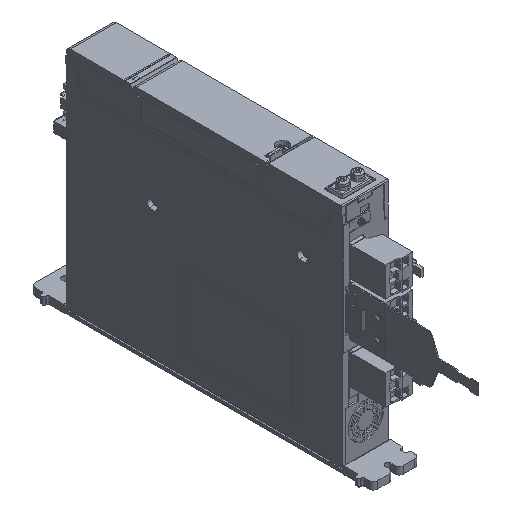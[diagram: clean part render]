
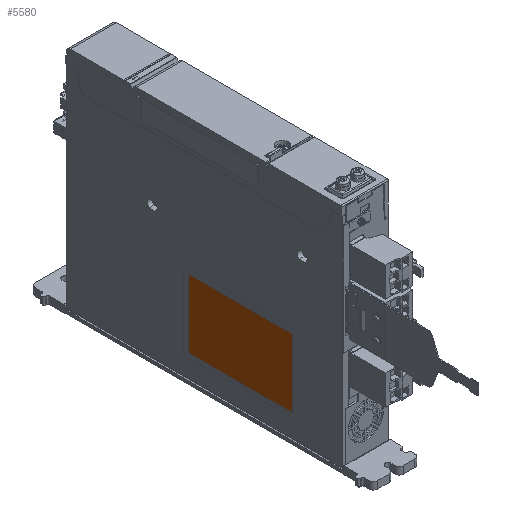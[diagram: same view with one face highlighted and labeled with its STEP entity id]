
A CAD part, isometric view. The second image highlights one B-rep face of the part: STEP entity #5580.
In plain terms, the highlighted planar face has unit normal (-1, 0, 0).
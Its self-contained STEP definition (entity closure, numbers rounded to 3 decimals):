
#5580 = ADVANCED_FACE( '', ( #11905 ), #11906, .F. );
#11905 = FACE_OUTER_BOUND( '', #18921, .T. );
#11906 = PLANE( '', #18922 );
#18921 = EDGE_LOOP( '', ( #36344, #36345, #36346, #36347, #36348, #36349, #36350, #36351 ) );
#18922 = AXIS2_PLACEMENT_3D( '', #36352, #36353, #36354 );
#36344 = ORIENTED_EDGE( '', *, *, #43712, .F. );
#36345 = ORIENTED_EDGE( '', *, *, #48945, .F. );
#36346 = ORIENTED_EDGE( '', *, *, #41697, .F. );
#36347 = ORIENTED_EDGE( '', *, *, #48946, .F. );
#36348 = ORIENTED_EDGE( '', *, *, #45241, .F. );
#36349 = ORIENTED_EDGE( '', *, *, #48947, .F. );
#36350 = ORIENTED_EDGE( '', *, *, #48948, .F. );
#36351 = ORIENTED_EDGE( '', *, *, #42623, .F. );
#36352 = CARTESIAN_POINT( '', ( -24.7, 54.1, -147.5 ) );
#36353 = DIRECTION( '', ( 1., 0., 0. ) );
#36354 = DIRECTION( '', ( 0., 0., -1. ) );
#41697 = EDGE_CURVE( '', #49978, #49980, #49981, .T. );
#42623 = EDGE_CURVE( '', #51652, #51654, #51655, .T. );
#43712 = EDGE_CURVE( '', #53529, #51652, #53531, .T. );
#45241 = EDGE_CURVE( '', #56032, #56034, #56035, .T. );
#48945 = EDGE_CURVE( '', #49980, #53529, #61131, .T. );
#48946 = EDGE_CURVE( '', #56034, #49978, #61132, .T. );
#48947 = EDGE_CURVE( '', #61133, #56032, #61134, .T. );
#48948 = EDGE_CURVE( '', #51654, #61133, #61135, .T. );
#49978 = VERTEX_POINT( '', #62257 );
#49980 = VERTEX_POINT( '', #62260 );
#49981 = LINE( '', #62261, #62262 );
#51652 = VERTEX_POINT( '', #64609 );
#51654 = VERTEX_POINT( '', #64612 );
#51655 = CIRCLE( '', #64613, 1. );
#53529 = VERTEX_POINT( '', #67185 );
#53531 = LINE( '', #67188, #67189 );
#56032 = VERTEX_POINT( '', #70730 );
#56034 = VERTEX_POINT( '', #70733 );
#56035 = LINE( '', #70734, #70735 );
#61131 = CIRCLE( '', #77988, 1. );
#61132 = CIRCLE( '', #77989, 1. );
#61133 = VERTEX_POINT( '', #77990 );
#61134 = CIRCLE( '', #77991, 1. );
#61135 = LINE( '', #77992, #77993 );
#62257 = CARTESIAN_POINT( '', ( -24.7, 165.9, -219.5 ) );
#62260 = CARTESIAN_POINT( '', ( -24.7, 165.9, -147.5 ) );
#62261 = CARTESIAN_POINT( '', ( -24.7, 165.9, -219.5 ) );
#62262 = VECTOR( '', #79411, 1000. );
#64609 = CARTESIAN_POINT( '', ( -24.7, 54.1, -146.5 ) );
#64612 = CARTESIAN_POINT( '', ( -24.7, 53.1, -147.5 ) );
#64613 = AXIS2_PLACEMENT_3D( '', #80443, #80444, #80445 );
#67185 = CARTESIAN_POINT( '', ( -24.7, 164.9, -146.5 ) );
#67188 = CARTESIAN_POINT( '', ( -24.7, 164.9, -146.5 ) );
#67189 = VECTOR( '', #81706, 1000. );
#70730 = CARTESIAN_POINT( '', ( -24.7, 54.1, -220.5 ) );
#70733 = CARTESIAN_POINT( '', ( -24.7, 164.9, -220.5 ) );
#70734 = CARTESIAN_POINT( '', ( -24.7, 54.1, -220.5 ) );
#70735 = VECTOR( '', #83461, 1000. );
#77988 = AXIS2_PLACEMENT_3D( '', #87562, #87563, #87564 );
#77989 = AXIS2_PLACEMENT_3D( '', #87565, #87566, #87567 );
#77990 = CARTESIAN_POINT( '', ( -24.7, 53.1, -219.5 ) );
#77991 = AXIS2_PLACEMENT_3D( '', #87568, #87569, #87570 );
#77992 = CARTESIAN_POINT( '', ( -24.7, 53.1, -147.5 ) );
#77993 = VECTOR( '', #87571, 1000. );
#79411 = DIRECTION( '', ( 0., 0., 1. ) );
#80443 = CARTESIAN_POINT( '', ( -24.7, 54.1, -147.5 ) );
#80444 = DIRECTION( '', ( 1., 0., 0. ) );
#80445 = DIRECTION( '', ( 0., 0., -1. ) );
#81706 = DIRECTION( '', ( 0., -1., 0. ) );
#83461 = DIRECTION( '', ( 0., 1., 0. ) );
#87562 = CARTESIAN_POINT( '', ( -24.7, 164.9, -147.5 ) );
#87563 = DIRECTION( '', ( 1., 0., 0. ) );
#87564 = DIRECTION( '', ( 0., 0., -1. ) );
#87565 = CARTESIAN_POINT( '', ( -24.7, 164.9, -219.5 ) );
#87566 = DIRECTION( '', ( 1., 0., 0. ) );
#87567 = DIRECTION( '', ( 0., 0., -1. ) );
#87568 = CARTESIAN_POINT( '', ( -24.7, 54.1, -219.5 ) );
#87569 = DIRECTION( '', ( 1., 0., 0. ) );
#87570 = DIRECTION( '', ( 0., 0., -1. ) );
#87571 = DIRECTION( '', ( 0., 0., -1. ) );
